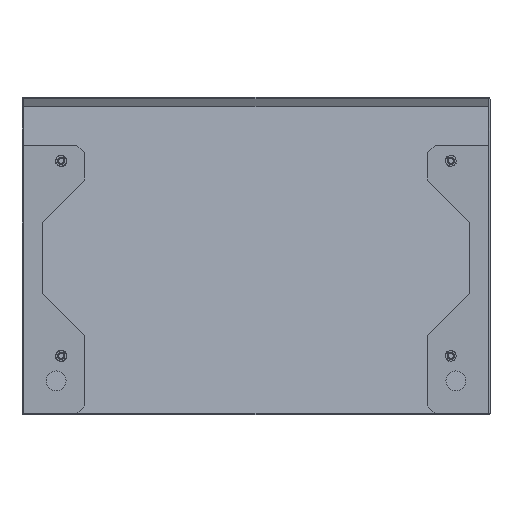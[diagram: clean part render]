
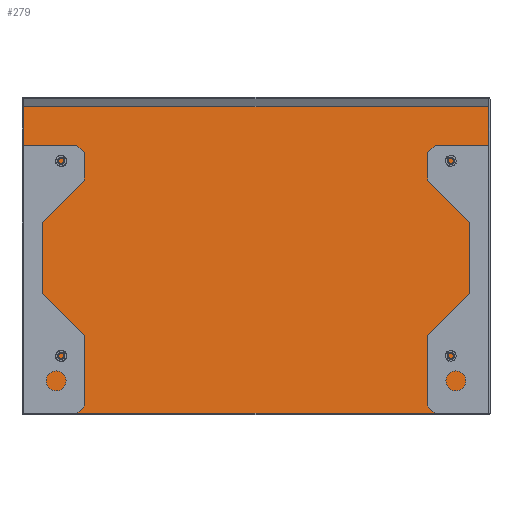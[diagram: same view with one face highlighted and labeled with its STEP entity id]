
A CAD part, front view. The second image highlights one B-rep face of the part: STEP entity #279.
In plain terms, the highlighted planar face has unit normal (0, -0.997, 0.081).
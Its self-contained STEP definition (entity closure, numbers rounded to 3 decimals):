
#137 = EDGE_CURVE ( 'NONE', #2124, #2122, #2846, .T. ) ;
#138 = EDGE_CURVE ( 'NONE', #2122, #2123, #2849, .T. ) ;
#139 = EDGE_CURVE ( 'NONE', #2125, #2124, #2852, .T. ) ;
#140 = EDGE_CURVE ( 'NONE', #2123, #2125, #2855, .T. ) ;
#279 = ADVANCED_FACE ( 'NONE', ( #692 ), #3289, .F. ) ;
#520 = VECTOR ( 'NONE', #2848, 1000. ) ;
#521 = VECTOR ( 'NONE', #2851, 1000. ) ;
#522 = VECTOR ( 'NONE', #2854, 1000. ) ;
#524 = VECTOR ( 'NONE', #2857, 1000. ) ;
#692 = FACE_OUTER_BOUND ( 'NONE', #2364, .T. ) ;
#695 = AXIS2_PLACEMENT_3D ( 'NONE', #3290, #3291, #3292 ) ;
#1212 = ORIENTED_EDGE ( 'NONE', *, *, #138, .F. ) ;
#1213 = ORIENTED_EDGE ( 'NONE', *, *, #139, .F. ) ;
#1214 = ORIENTED_EDGE ( 'NONE', *, *, #137, .F. ) ;
#1215 = ORIENTED_EDGE ( 'NONE', *, *, #140, .F. ) ;
#2122 = VERTEX_POINT ( 'NONE', #4034 ) ;
#2123 = VERTEX_POINT ( 'NONE', #4035 ) ;
#2124 = VERTEX_POINT ( 'NONE', #4036 ) ;
#2125 = VERTEX_POINT ( 'NONE', #4037 ) ;
#2364 = EDGE_LOOP ( 'NONE', ( #1212, #1214, #1213, #1215 ) ) ;
#2846 = LINE ( 'NONE', #2847, #520 ) ;
#2847 = CARTESIAN_POINT ( 'NONE',  ( -610., 24.953, 1.952 ) ) ;
#2848 = DIRECTION ( 'NONE',  ( -1., 0., 0. ) ) ;
#2849 = LINE ( 'NONE', #2850, #521 ) ;
#2850 = CARTESIAN_POINT ( 'NONE',  ( -608., 57.375, 403.026 ) ) ;
#2851 = DIRECTION ( 'NONE',  ( 0., 0.081, 0.997 ) ) ;
#2852 = LINE ( 'NONE', #2853, #522 ) ;
#2853 = CARTESIAN_POINT ( 'NONE',  ( -2., 57.375, 403.026 ) ) ;
#2854 = DIRECTION ( 'NONE',  ( 0., -0.081, -0.997 ) ) ;
#2855 = LINE ( 'NONE', #2856, #524 ) ;
#2856 = CARTESIAN_POINT ( 'NONE',  ( -610., 57.232, 401.262 ) ) ;
#2857 = DIRECTION ( 'NONE',  ( 1., 0., 0. ) ) ;
#3289 = PLANE ( 'NONE',  #695 ) ;
#3290 = CARTESIAN_POINT ( 'NONE',  ( -610., 57.375, 403.026 ) ) ;
#3291 = DIRECTION ( 'NONE',  ( 0., 0.997, -0.081 ) ) ;
#3292 = DIRECTION ( 'NONE',  ( 0., 0.081, 0.997 ) ) ;
#4034 = CARTESIAN_POINT ( 'NONE',  ( -608., 24.953, 1.952 ) ) ;
#4035 = CARTESIAN_POINT ( 'NONE',  ( -608., 57.232, 401.262 ) ) ;
#4036 = CARTESIAN_POINT ( 'NONE',  ( -2., 24.953, 1.952 ) ) ;
#4037 = CARTESIAN_POINT ( 'NONE',  ( -2., 57.232, 401.262 ) ) ;
